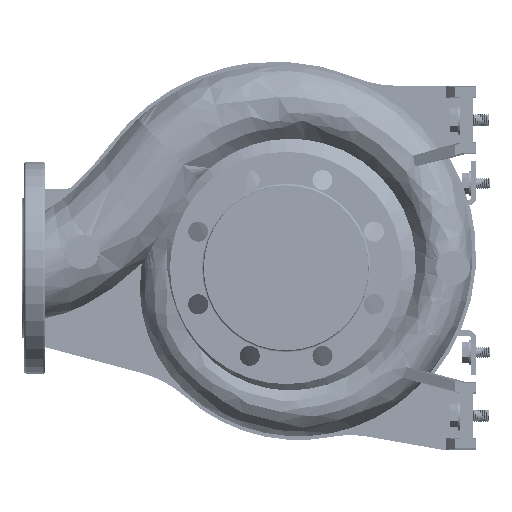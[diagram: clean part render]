
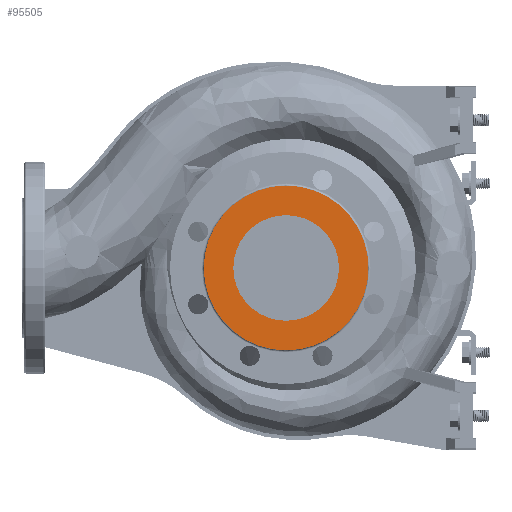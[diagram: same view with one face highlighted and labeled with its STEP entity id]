
A CAD part, left-side view. The second image highlights one B-rep face of the part: STEP entity #95505.
In plain terms, the highlighted planar face has unit normal (-1, 0, 0).
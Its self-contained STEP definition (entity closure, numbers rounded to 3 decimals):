
#3724 = DIRECTION ( 'NONE',  ( -1., 0., 0. ) ) ;
#4691 = DIRECTION ( 'NONE',  ( 0., 0., -1. ) ) ;
#14188 = DIRECTION ( 'NONE',  ( -1., 0., 0. ) ) ;
#14301 = CARTESIAN_POINT ( 'NONE',  ( -125., 0., 0. ) ) ;
#17885 = VERTEX_POINT ( 'NONE', #105767 ) ;
#17987 = CIRCLE ( 'NONE', #107517, 50. ) ;
#19030 = DIRECTION ( 'NONE',  ( -1., 0., 0. ) ) ;
#19679 = VERTEX_POINT ( 'NONE', #32013 ) ;
#20450 = CARTESIAN_POINT ( 'NONE',  ( -125., 0., -78. ) ) ;
#32013 = CARTESIAN_POINT ( 'NONE',  ( -125., 0., -50. ) ) ;
#36911 = EDGE_CURVE ( 'NONE', #115297, #17885, #60442, .T. ) ;
#47367 = ORIENTED_EDGE ( 'NONE', *, *, #64931, .F. ) ;
#51439 = ORIENTED_EDGE ( 'NONE', *, *, #147839, .T. ) ;
#60442 = CIRCLE ( 'NONE', #143887, 78. ) ;
#62622 = DIRECTION ( 'NONE',  ( -1., 0., 0. ) ) ;
#62748 = DIRECTION ( 'NONE',  ( 0., 0., 1. ) ) ;
#64931 = EDGE_CURVE ( 'NONE', #19679, #176528, #180574, .T. ) ;
#65806 = EDGE_LOOP ( 'NONE', ( #51439, #190098 ) ) ;
#69436 = DIRECTION ( 'NONE',  ( 0., 0., 1. ) ) ;
#73248 = CARTESIAN_POINT ( 'NONE',  ( -125., 0., 0. ) ) ;
#79183 = FACE_OUTER_BOUND ( 'NONE', #65806, .T. ) ;
#79234 = CARTESIAN_POINT ( 'NONE',  ( -125., 0., 50. ) ) ;
#80133 = DIRECTION ( 'NONE',  ( 1., 0., 0. ) ) ;
#93361 = AXIS2_PLACEMENT_3D ( 'NONE', #106320, #3724, #62748 ) ;
#95505 = ADVANCED_FACE ( 'NONE', ( #141097, #79183 ), #137261, .F. ) ;
#105388 = ORIENTED_EDGE ( 'NONE', *, *, #169604, .F. ) ;
#105767 = CARTESIAN_POINT ( 'NONE',  ( -125., 0., 78. ) ) ;
#106320 = CARTESIAN_POINT ( 'NONE',  ( -125., 0., 0. ) ) ;
#107517 = AXIS2_PLACEMENT_3D ( 'NONE', #135221, #19030, #168045 ) ;
#108217 = CARTESIAN_POINT ( 'NONE',  ( -125., 0., 0. ) ) ;
#112459 = AXIS2_PLACEMENT_3D ( 'NONE', #108217, #80133, #4691 ) ;
#115297 = VERTEX_POINT ( 'NONE', #20450 ) ;
#117866 = DIRECTION ( 'NONE',  ( 0., 0., 1. ) ) ;
#128091 = AXIS2_PLACEMENT_3D ( 'NONE', #14301, #62622, #117866 ) ;
#135221 = CARTESIAN_POINT ( 'NONE',  ( -125., 0., 0. ) ) ;
#137261 = PLANE ( 'NONE',  #112459 ) ;
#141097 = FACE_BOUND ( 'NONE', #180350, .T. ) ;
#143887 = AXIS2_PLACEMENT_3D ( 'NONE', #73248, #14188, #69436 ) ;
#147839 = EDGE_CURVE ( 'NONE', #17885, #115297, #179834, .T. ) ;
#168045 = DIRECTION ( 'NONE',  ( 0., 0., 1. ) ) ;
#169604 = EDGE_CURVE ( 'NONE', #176528, #19679, #17987, .T. ) ;
#176528 = VERTEX_POINT ( 'NONE', #79234 ) ;
#179834 = CIRCLE ( 'NONE', #93361, 78. ) ;
#180350 = EDGE_LOOP ( 'NONE', ( #105388, #47367 ) ) ;
#180574 = CIRCLE ( 'NONE', #128091, 50. ) ;
#190098 = ORIENTED_EDGE ( 'NONE', *, *, #36911, .T. ) ;
